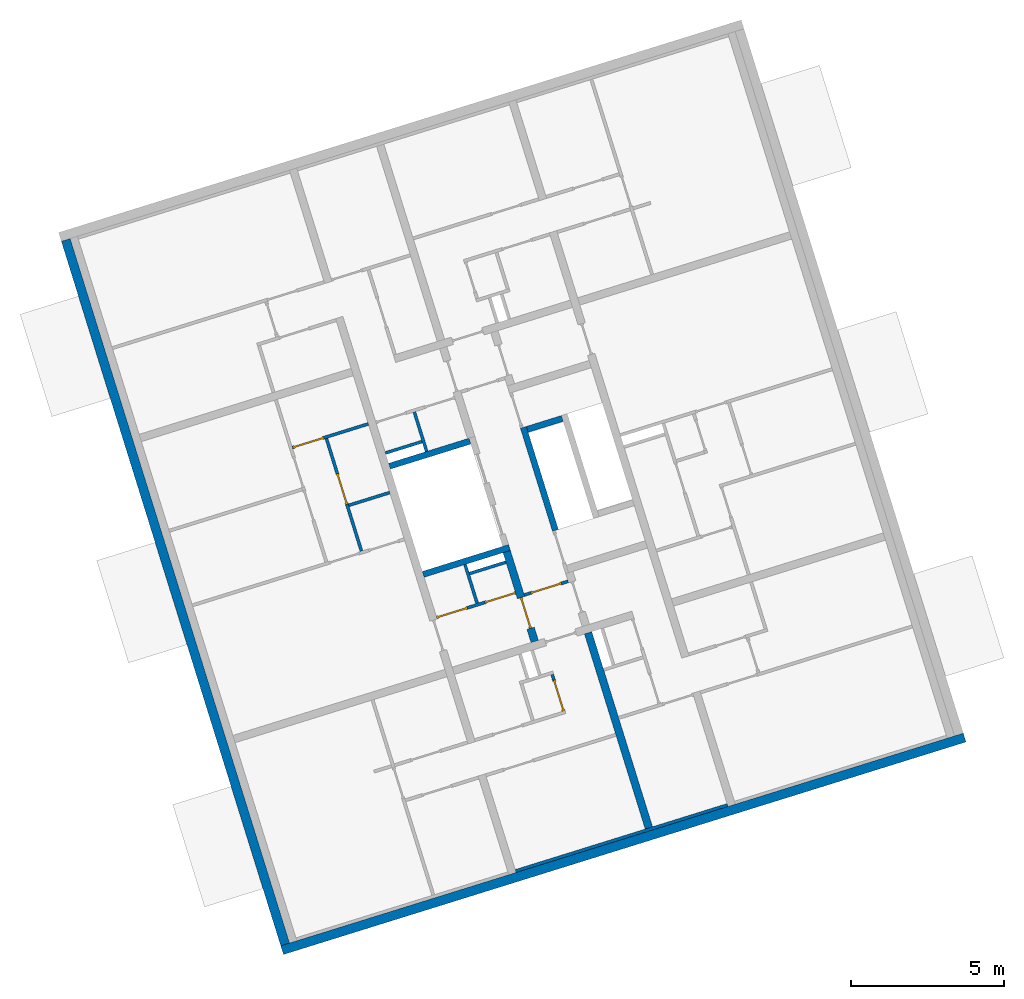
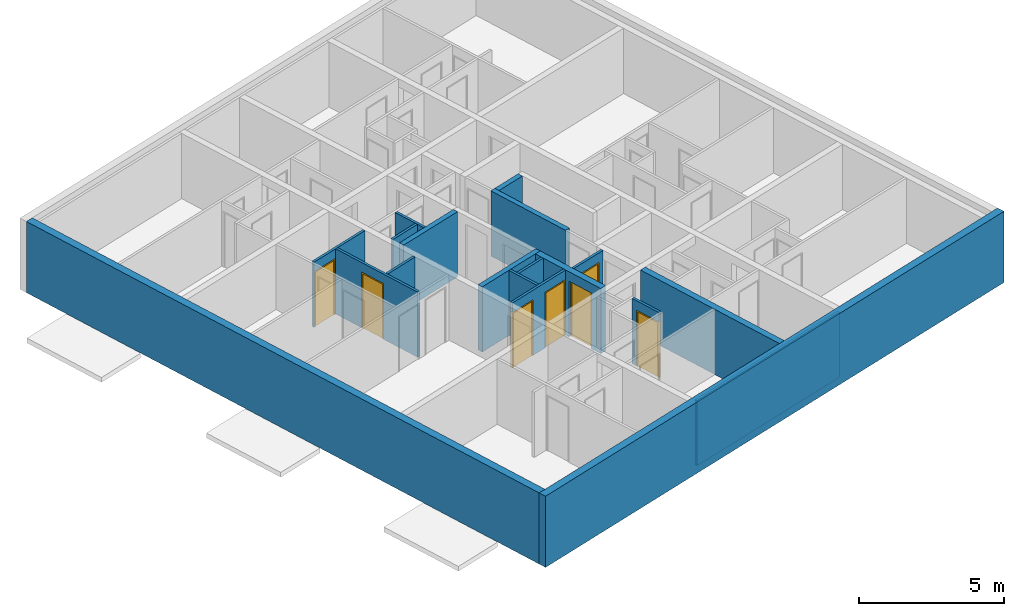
# One storey, part 2 of 9: 19 walls, 7 doors, 7 openings.
"""IFC4 building model written with IfcOpenShell, lengths in metres."""

from ifc_helpers import new_model, entity, si_unit, converted_unit, direction, frame, origin, place, context, subcontext, project, spatial, indexed_curve, outline, extrude, polygons, source, transform, mapped, material, constituent, constituent_set, type_object, type_shapes, element, fill, save


model = new_model("IFC4")

# Units and contexts
model_context = context("Model", 3, precision=1e-05, world=origin(), true_north=direction((6.12323399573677e-17, 1.0)))
body_context = subcontext(model_context, "Body", "Model", "MODEL_VIEW")
ifc_project = project(units=[si_unit("LENGTHUNIT", "METRE"), si_unit("AREAUNIT", "SQUARE_METRE"), si_unit("VOLUMEUNIT", "CUBIC_METRE"), converted_unit("PLANEANGLEUNIT", "DEGREE", entity("IfcPlaneAngleMeasure", 0.0174532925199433), si_unit("PLANEANGLEUNIT", "RADIAN"), dimensions=[0, 0, 0, 0, 0, 0, 0])], contexts=[model_context])

# Site, building, storey
site_placement = place(None, frame((13.1347999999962, 11.9886000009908, 0.0), z_axis=(0.0, 0.0, 1.0), x_axis=(0.954770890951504, 0.297342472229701, 0.0)))
site = spatial("IfcSite", under=ifc_project, at=site_placement, Name="Schiehaven", CompositionType="ELEMENT")
building_placement = place(site_placement, origin())
building = spatial("IfcBuilding", under=site, at=building_placement, Name="VORM huis", CompositionType="ELEMENT")
storey_placement = place(building_placement, frame((0.0, 0.0, 24.9)))
storey = spatial("IfcBuildingStorey", under=building, at=storey_placement, Name="08 achtste verdieping", CompositionType="ELEMENT", Elevation=24.9)

# Walls
ifc_material_1 = material(Name="ntb_ntb_ntb", Category="Miscellaneous")
wall_type_1 = type_object("IfcWallType", Name="Basic Wall:21_WA_gevel_binnenspouwwand 100mm_gen", PredefinedType="STANDARD")
wall_1_placement = place(storey_placement, frame((19.875, 5.04999999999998, 0.0), z_axis=(0.0, 0.0, 1.0), x_axis=(-1.0, 0.0, 0.0)))
element("IfcWall", 1, at=wall_1_placement, inside=storey, type_object=wall_type_1, material=ifc_material_1, Name="Binnenspouwblad", ObjectType="Wand", PredefinedType="NOTDEFINED", context=body_context, shape_type="SweptSolid", body=[
    extrude(outline(indexed_curve([(7.24999999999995, 0.0499999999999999), (-3.39037421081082e-16, 0.0499999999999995), (3.39037421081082e-16, -0.0499999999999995), (7.24999999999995, -0.049999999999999), (7.24999999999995, 0.0499999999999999)], self_intersect=False)), origin(), (0.0, 0.0, 1.0), 2.75),
])
wall_type_2 = type_object("IfcWallType", Name="Basic Wall: 300mm_gen", PredefinedType="STANDARD")
wall_2_placement = place(storey_placement, frame((4.72500000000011, 5.0, 0.0), z_axis=(0.0, 0.0, 1.0), x_axis=(0.0, 1.0, 0.0)))
element("IfcWall", 2, at=wall_2_placement, inside=storey, type_object=wall_type_2, material=ifc_material_1, Name="Gevelwand", ObjectType="Wand", PredefinedType="NOTDEFINED", context=body_context, shape_type="SweptSolid", body=[
    extrude(outline(indexed_curve([(24.1, 0.15), (-1.57429718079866e-16, 0.15), (1.57429718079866e-16, -0.15), (24.1, -0.15), (24.1, 0.15)], self_intersect=False)), origin(), (0.0, 0.0, 1.0), 3.0),
])
wall_3_placement = place(storey_placement, frame((27.9250000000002, 4.84999999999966, 0.0), z_axis=(0.0, 0.0, 1.0), x_axis=(-1.0, 0.0, 0.0)))
element("IfcWall", 3, at=wall_3_placement, inside=storey, type_object=wall_type_2, material=ifc_material_1, Name="Gevelwand", ObjectType="Wand", PredefinedType="NOTDEFINED", context=body_context, shape_type="SweptSolid", body=[
    extrude(outline(indexed_curve([(23.3500000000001, 0.150000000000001), (2.00830454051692e-15, 0.15), (2.32316397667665e-15, -0.15), (23.3500000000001, -0.15), (23.3500000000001, 0.150000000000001)], self_intersect=False)), origin(), (0.0, 0.0, 1.0), 3.0),
])
ifc_material_2 = material(Name="beton_gewapend_prefab-element", Category="Miscellaneous")
wall_type_3 = type_object("IfcWallType", Name="Basic Wall:28_WA_skelet_wand 200mm_gen", PredefinedType="STANDARD")
wall_4_placement = place(storey_placement, frame((12.6250000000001, 15.2, 0.0)))
element("IfcWall", 4, at=wall_4_placement, inside=storey, type_object=wall_type_3, material=ifc_material_2, Name="Constructieve wand", ObjectType="Wand", PredefinedType="NOTDEFINED", context=body_context, shape_type="SweptSolid", body=[
    extrude(outline(indexed_curve([(2.9500000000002, 0.100000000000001), (-3.51397851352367e-16, 0.100000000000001), (3.51397851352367e-16, -0.100000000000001), (2.9500000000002, -0.100000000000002), (2.9500000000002, 0.100000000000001)], self_intersect=False)), origin(), (0.0, 0.0, 1.0), 2.75),
])
wall_5_placement = place(storey_placement, frame((15.3750000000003, 18.9, 0.0), z_axis=(0.0, 0.0, 1.0), x_axis=(-1.0, 0.0, 0.0)))
element("IfcWall", 5, at=wall_5_placement, inside=storey, type_object=wall_type_3, material=ifc_material_2, Name="Constructieve wand", ObjectType="Wand", PredefinedType="NOTDEFINED", context=body_context, shape_type="SweptSolid", body=[
    extrude(outline(indexed_curve([(2.75000000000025, 0.100000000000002), (-2.05391259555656e-16, 0.100000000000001), (2.05391259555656e-16, -0.100000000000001), (2.75000000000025, -0.0999999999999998), (2.75000000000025, 0.100000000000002)], self_intersect=False)), origin(), (0.0, 0.0, 1.0), 2.75),
])
wall_6_placement = place(storey_placement, frame((17.1750000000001, 15.29, 0.0), z_axis=(0.0, 0.0, 1.0), x_axis=(0.0, 1.0, 0.0)))
element("IfcWall", 6, at=wall_6_placement, inside=storey, type_object=wall_type_3, material=ifc_material_2, Name="Constructieve wand", ObjectType="Wand", PredefinedType="NOTDEFINED", context=body_context, shape_type="SweptSolid", body=[
    extrude(outline(indexed_curve([(3.52, 0.0999999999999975), (-5.13023966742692e-16, 0.0999999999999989), (5.13023966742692e-16, -0.0999999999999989), (3.52, -0.1), (3.52, 0.0999999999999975)], self_intersect=False)), origin(), (0.0, 0.0, 1.0), 2.75),
])
wall_type_4 = type_object("IfcWallType", Name="Basic Wall:22_WA_afbouw_binnenwand 250mm_gen", PredefinedType="STANDARD")
wall_7_placement = place(storey_placement, frame((17.2000000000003, 11.7749999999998, 0.0), z_axis=(0.0, 0.0, 1.0), x_axis=(0.0, -1.0, 0.0)))
element("IfcWall", 7, at=wall_7_placement, inside=storey, type_object=wall_type_4, material=ifc_material_1, Name="Binnenwand", ObjectType="Wand", PredefinedType="NOTDEFINED", context=body_context, shape_type="SweptSolid", body=[
    extrude(outline(indexed_curve([(6.67500000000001, 0.125), (2.50179154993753e-16, 0.125), (-2.50179154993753e-16, -0.125), (6.67500000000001, -0.124999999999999), (6.67500000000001, 0.125)], self_intersect=False)), origin(), (0.0, 0.0, 1.0), 2.75),
])

# Wall, opening, door
wall_8_placement = place(storey_placement, frame((15.4500000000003, 15.0999999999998, 0.0), z_axis=(0.0, 0.0, 1.0), x_axis=(0.0, -1.0, 0.0)))
wall_8 = element("IfcWall", 8, at=wall_8_placement, inside=storey, type_object=wall_type_4, material=ifc_material_1, Name="Binnenwand", ObjectType="Wand", PredefinedType="NOTDEFINED", context=body_context, shape_type="Tessellation", body=[
    polygons([(2.62500000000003, -0.124999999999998, 2.34999999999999), (2.62500000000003, -0.124999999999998, 0.0), (3.07499999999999, -0.124999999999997, 0.0), (3.07499999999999, -0.124999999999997, 2.75), (0.0, -0.124999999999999, 2.75), (0.0, -0.124999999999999, 0.0), (1.57500000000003, -0.125, 0.0), (1.57500000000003, -0.125, 2.34999999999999), (3.07499999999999, 0.125000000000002, 0.0), (2.62500000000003, 0.125000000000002, 0.0), (2.62500000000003, 0.125000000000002, 2.34999999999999), (1.57500000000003, 0.125000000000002, 2.34999999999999), (1.57500000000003, 0.125000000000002, 0.0), (1.475, 0.125000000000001, 0.0), (0.0, 0.125, 0.0), (0.0, 0.125, 2.75), (1.475, 0.125000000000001, 2.75), (1.575, 0.125000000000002, 2.75), (3.07499999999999, 0.125000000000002, 2.75)], [[[1, 2, 3, 4, 5, 6, 7, 8]], [[9, 10, 11, 12, 13, 14, 15, 16, 17, 18, 19]], [[7, 6, 15, 14, 13]], [[4, 3, 9, 19]], [[5, 4, 19, 18, 17, 16]], [[6, 5, 16, 15]], [[13, 12, 8, 7]], [[11, 10, 2, 1]], [[12, 11, 1, 8]], [[3, 2, 10, 9]]], closed=True),
])
opening_1_placement = place(wall_8_placement, frame((1.57500000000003, -0.125000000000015, 0.0)))
opening_1 = element("IfcOpeningElement", 9, at=opening_1_placement, cuts=wall_8, Name="Woningtoegangsdeur", PredefinedType="OPENING", context=body_context, shape_type="SweptSolid", body=[
    extrude(outline(indexed_curve([(2.34999999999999, 1.35358391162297e-15), (2.34999999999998, 1.05), (0.0, 1.05), (2.16573425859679e-15, 1.35358391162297e-15), (2.34999999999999, 1.35358391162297e-15)], self_intersect=False)), frame((0.0, 0.0, 0.0), z_axis=(0.0, 1.0, 0.0), x_axis=(0.0, 0.0, 1.0)), (0.0, 0.0, 1.0), 0.25),
])
ifc_material_3 = material(Name="PD_a_binnenwandopeningen", Category="Miscellaneous")
ifc_constituent_1 = constituent(ifc_material_3, Name="PD_a_binnenwandopeningen", Category="Miscellaneous")
ifc_material_4 = material(Name="metaal_aluminium_ntb", Category="Miscellaneous")
ifc_constituent_2 = constituent(ifc_material_4, Name="metaal_aluminium_ntb", Category="Miscellaneous")
ifc_constituent_set_1 = constituent_set(constituents=[ifc_constituent_1, ifc_constituent_2])
door_type_1 = type_object("IfcDoorType", Name="32_DO_binnendeur enkel:woningtoegangsdeur", OperationType="REVOLVING", PredefinedType="DOOR")
shared_shape_1 = source(origin(), body_context, "Body", "SweptSolid", [
    extrude(outline(indexed_curve([(0.475, -1.16249999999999), (0.525000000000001, -1.16249999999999), (0.525000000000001, 1.18749999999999), (-0.525000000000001, 1.18749999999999), (-0.525000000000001, -1.16249999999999), (-0.475, -1.16249999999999), (-0.475, 1.13749999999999), (0.475, 1.13749999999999), (0.475, -1.16249999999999)], self_intersect=False)), frame((0.525000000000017, 0.174999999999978, 1.16249999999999), z_axis=(0.0, -1.0, 0.0), x_axis=(1.0, 0.0, 0.0)), (0.0, 0.0, 1.0), 0.1),
    extrude(outline(indexed_curve([(-0.475, -0.025), (0.475, -0.025), (0.475, 0.025), (-0.475, 0.025), (-0.475, -0.025)], self_intersect=False)), frame((0.525000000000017, 0.12499999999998, 0.0)), (0.0, 0.0, 1.0), 2.29999999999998),
])
door_1_placement = place(opening_1_placement, origin())
door_1 = element("IfcDoor", 10, at=door_1_placement, inside=storey, type_object=door_type_1, material=ifc_constituent_set_1, Name="Woningtoegangsdeur", ObjectType="Deur", OperationType="REVOLVING", OverallHeight=2.34999999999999, OverallWidth=1.05, PredefinedType="DOOR", context=body_context, shape_type="MappedRepresentation", body=[
    mapped(shared_shape_1, transform((0.0, 0.0, 0.0), scale=1.0)),
])
fill(opening_1, door_1)

wall_type_5 = type_object("IfcWallType", Name="Basic Wall:22_WA_afbouw_binnenwand 100mm_gen", PredefinedType="STANDARD")
wall_9_placement = place(storey_placement, frame((17.0750000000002, 13.5749999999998, 0.0), z_axis=(0.0, 0.0, 1.0), x_axis=(-1.0, 0.0, 0.0)))
wall_9 = element("IfcWall", 11, at=wall_9_placement, inside=storey, type_object=wall_type_5, material=ifc_material_1, Name="Binnenwand", ObjectType="Wand", PredefinedType="NOTDEFINED", context=body_context, shape_type="Tessellation", body=[
    polygons([(1.50000000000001, -0.0499999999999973, 2.75), (-5.48799231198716e-16, -0.0499999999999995, 2.75), (-5.48799231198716e-16, -0.0499999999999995, 0.0), (0.225, -0.0499999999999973, 0.0), (0.225000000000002, -0.0500000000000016, 2.34999999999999), (1.275, -0.0499999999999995, 2.34999999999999), (1.275, -0.0499999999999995, 0.0), (1.50000000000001, -0.0499999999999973, 0.0), (-4.9311163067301e-16, 0.0500000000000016, 2.75), (1.5, 0.0499999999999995, 2.75), (1.5, 0.0499999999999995, 2.34999999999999), (1.5, 0.0499999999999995, 0.0), (1.275, 0.0499999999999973, 0.0), (1.275, 0.0499999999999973, 2.34999999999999), (0.225, 0.0499999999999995, 2.34999999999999), (0.225, 0.0499999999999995, 0.0), (-4.9311163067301e-16, 0.0500000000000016, 0.0), (-4.93111630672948e-16, 0.0499999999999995, 2.34999999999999)], [[[1, 2, 3, 4, 5, 6, 7, 8]], [[9, 10, 11, 12, 13, 14, 15, 16, 17, 18]], [[3, 17, 16, 4]], [[2, 1, 10, 9]], [[15, 5, 4, 16]], [[5, 15, 14, 6]], [[6, 14, 13, 7]], [[3, 2, 9, 18, 17]], [[1, 8, 12, 11, 10]], [[12, 8, 7, 13]]], closed=True),
])
opening_2_placement = place(wall_9_placement, frame((1.275, 0.0499999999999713, 0.0)))
opening_2 = element("IfcOpeningElement", 12, at=opening_2_placement, cuts=wall_9, Name="Vluchtdeur", PredefinedType="OPENING", context=body_context, shape_type="SweptSolid", body=[
    extrude(outline(indexed_curve([(2.34999999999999, 1.35358391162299e-15), (2.34999999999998, 1.05), (0.0, 1.05), (2.16573425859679e-15, 1.35358391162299e-15), (2.34999999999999, 1.35358391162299e-15)], self_intersect=False)), frame((0.0, 0.0, 0.0), z_axis=(0.0, -1.0, 0.0), x_axis=(0.0, 0.0, 1.0)), (0.0, 0.0, 1.0), 0.1),
])
ifc_constituent_3 = constituent(ifc_material_3, Name="PD_a_binnenwandopeningen", Category="Miscellaneous")
ifc_constituent_4 = constituent(ifc_material_4, Name="metaal_aluminium_ntb", Category="Miscellaneous")
ifc_constituent_set_2 = constituent_set(constituents=[ifc_constituent_3, ifc_constituent_4])
door_type_2 = type_object("IfcDoorType", Name="32_DO_binnendeur enkel:binnendeur zelfsluitend 30min", OperationType="NOTDEFINED", PredefinedType="DOOR")
shared_shape_2 = source(origin(), body_context, "Body", "SweptSolid", [
    extrude(outline(indexed_curve([(0.475, -1.16249999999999), (0.525, -1.16249999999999), (0.525, 1.18749999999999), (-0.525, 1.18749999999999), (-0.525, -1.16249999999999), (-0.475, -1.16249999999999), (-0.475, 1.13749999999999), (0.475, 1.13749999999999), (0.475, -1.16249999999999)], self_intersect=False)), frame((0.525000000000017, 0.100000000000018, 1.16249999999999), z_axis=(0.0, -1.0, 0.0), x_axis=(1.0, 0.0, 0.0)), (0.0, 0.0, 1.0), 0.1),
    extrude(outline(indexed_curve([(-0.475, -0.025), (0.475, -0.025), (0.475, 0.025), (-0.475, 0.025), (-0.475, -0.025)], self_intersect=False)), frame((0.525000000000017, 0.0499999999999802, 0.0)), (0.0, 0.0, 1.0), 2.29999999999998),
])
door_2_placement = place(opening_2_placement, frame((0.0, 0.0, 0.0), z_axis=(0.0, 0.0, 1.0), x_axis=(-1.0, 0.0, 0.0)))
door_2 = element("IfcDoor", 13, at=door_2_placement, inside=storey, type_object=door_type_2, material=ifc_constituent_set_2, Name="Vluchtdeur", ObjectType="Deur", OperationType="NOTDEFINED", OverallHeight=2.34999999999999, OverallWidth=1.05, PredefinedType="DOOR", context=body_context, shape_type="MappedRepresentation", body=[
    mapped(shared_shape_2, transform((0.0, 0.0, 0.0), scale=1.0)),
])
fill(opening_2, door_2)

wall_10_placement = place(storey_placement, frame((15.6750000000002, 9.57499999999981, 0.0), z_axis=(0.0, 0.0, 1.0), x_axis=(0.0, 1.0, 0.0)))
wall_10 = element("IfcWall", 14, at=wall_10_placement, inside=storey, type_object=wall_type_5, material=ifc_material_1, Name="Binnenwand", ObjectType="Wand", PredefinedType="NOTDEFINED", context=body_context, shape_type="Tessellation", body=[
    polygons([(1.25, -0.0499999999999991, 2.75), (1.08286712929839e-15, -0.0499999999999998, 2.75), (1.08286712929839e-15, -0.0499999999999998, 2.34999999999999), (1.05, -0.050000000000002, 2.34999999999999), (1.05, -0.050000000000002, 0.0), (1.25, -0.0499999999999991, 0.0), (0.0, 0.0500000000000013, 2.75), (1.25, 0.0499999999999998, 2.75), (1.25, 0.0499999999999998, 0.0), (1.05, 0.0499999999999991, 0.0), (1.05, 0.0499999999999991, 2.34999999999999), (0.0, 0.0500000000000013, 2.34999999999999)], [[[1, 2, 3, 4, 5, 6]], [[7, 8, 9, 10, 11, 12]], [[9, 6, 5, 10]], [[2, 1, 8, 7]], [[4, 11, 10, 5]], [[11, 4, 3, 12]], [[1, 6, 9, 8]], [[2, 7, 12, 3]]], closed=True),
])
opening_3_placement = place(wall_10_placement, frame((1.05, 0.0499999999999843, 0.0)))
opening_3 = element("IfcOpeningElement", 15, at=opening_3_placement, cuts=wall_10, Name="Binnendeur", PredefinedType="OPENING", context=body_context, shape_type="SweptSolid", body=[
    extrude(outline(indexed_curve([(2.34999999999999, 1.05), (0.0, 1.05), (0.0, 1.35358391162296e-15), (2.34999999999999, 1.35358391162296e-15), (2.34999999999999, 1.05)], self_intersect=False)), frame((0.0, 0.0, 0.0), z_axis=(0.0, -1.0, 0.0), x_axis=(0.0, 0.0, 1.0)), (0.0, 0.0, 1.0), 0.1),
])
ifc_constituent_5 = constituent(ifc_material_3, Name="PD_a_binnenwandopeningen", Category="Miscellaneous")
ifc_constituent_6 = constituent(ifc_material_4, Name="metaal_aluminium_ntb", Category="Miscellaneous")
ifc_constituent_set_3 = constituent_set(constituents=[ifc_constituent_5, ifc_constituent_6])
door_type_3 = type_object("IfcDoorType", Name="32_DO_binnendeur enkel:binnendeur", OperationType="REVOLVING", PredefinedType="DOOR")
shared_shape_3 = source(origin(), body_context, "Body", "SweptSolid", [
    extrude(outline(indexed_curve([(-1.16249999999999, -0.525000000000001), (1.18749999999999, -0.525), (1.18749999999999, 0.525), (-1.16249999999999, 0.525), (-1.16249999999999, 0.475), (1.13749999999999, 0.475), (1.13749999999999, -0.475), (-1.16249999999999, -0.475), (-1.16249999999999, -0.525000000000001)], self_intersect=False)), frame((0.525000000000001, 0.0, 1.16249999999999), z_axis=(0.0, 1.0, 0.0), x_axis=(0.0, 0.0, 1.0)), (0.0, 0.0, 1.0), 0.1),
    extrude(outline(indexed_curve([(-0.025, -0.475), (0.025, -0.475), (0.025, 0.475), (-0.025, 0.475), (-0.025, -0.475)], self_intersect=False)), frame((0.525000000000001, 0.0499999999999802, 0.0), z_axis=(0.0, 0.0, 1.0), x_axis=(0.0, 1.0, 0.0)), (0.0, 0.0, 1.0), 2.29999999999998),
])
type_shapes(door_type_3, [shared_shape_3])
door_3_placement = place(opening_3_placement, frame((0.0, 0.0, 0.0), z_axis=(0.0, 0.0, 1.0), x_axis=(-1.0, 0.0, 0.0)))
door_3 = element("IfcDoor", 16, at=door_3_placement, inside=storey, type_object=door_type_3, material=ifc_constituent_set_3, Name="Binnendeur", ObjectType="Deur", OperationType="REVOLVING", OverallHeight=2.34999999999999, OverallWidth=1.05, PredefinedType="DOOR", context=body_context, shape_type="MappedRepresentation", body=[
    mapped(shared_shape_3, transform((0.0, 0.0, 0.0), scale=1.0)),
])
fill(opening_3, door_3)

# Walls
wall_11_placement = place(storey_placement, frame((13.9250000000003, 19.0, 0.0), z_axis=(0.0, 0.0, 1.0), x_axis=(0.0, 1.0, 0.0)))
element("IfcWall", 17, at=wall_11_placement, inside=storey, type_object=wall_type_5, material=ifc_material_1, Name="Binnenwand", ObjectType="Wand", PredefinedType="NOTDEFINED", context=body_context, shape_type="SweptSolid", body=[
    extrude(outline(indexed_curve([(1.34999999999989, 0.05), (-2.17202003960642e-17, 0.0499999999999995), (2.17202003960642e-17, -0.0499999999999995), (1.34999999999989, -0.0499999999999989), (1.34999999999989, 0.05)], self_intersect=False)), origin(), (0.0, 0.0, 1.0), 2.75),
])
wall_12_placement = place(storey_placement, frame((12.6250000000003, 19.3499999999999, 0.0)))
element("IfcWall", 18, at=wall_12_placement, inside=storey, type_object=wall_type_5, material=ifc_material_1, Name="Binnenwand", ObjectType="Wand", PredefinedType="NOTDEFINED", context=body_context, shape_type="SweptSolid", body=[
    extrude(outline(indexed_curve([(1.25000000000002, 0.0500000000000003), (9.21562864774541e-16, 0.0499999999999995), (-9.21562864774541e-16, -0.0499999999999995), (1.25000000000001, -0.0499999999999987), (1.25000000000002, 0.0500000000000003)], self_intersect=False)), origin(), (0.0, 0.0, 1.0), 2.75),
])

# Wall, opening, door
wall_13_placement = place(storey_placement, frame((9.77500000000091, 20.4250000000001, 0.0)))
wall_13 = element("IfcWall", 19, at=wall_13_placement, inside=storey, type_object=wall_type_5, material=ifc_material_1, Name="Binnenwand", ObjectType="Wand", PredefinedType="NOTDEFINED", context=body_context, shape_type="Tessellation", body=[
    polygons([(1.075, -0.0499999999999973, 2.34999999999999), (1.075, -0.0499999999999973, 0.0), (1.1, -0.0499999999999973, 0.0), (1.2, -0.0499999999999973, 0.0), (2.59999999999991, -0.0499999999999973, 0.0), (2.59999999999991, -0.0499999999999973, 2.75), (1.2, -0.0499999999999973, 2.75), (1.1, -0.0499999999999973, 2.75), (9.59700802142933e-16, -0.0499999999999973, 2.75), (9.59700802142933e-16, -0.0499999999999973, 0.0), (0.0250000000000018, -0.0499999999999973, 0.0), (0.0250000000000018, -0.0499999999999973, 2.34999999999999), (2.59999999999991, 0.0500000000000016, 0.0), (1.075, 0.0500000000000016, 0.0), (1.075, 0.0500000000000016, 2.34999999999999), (0.0250000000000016, 0.0500000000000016, 2.34999999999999), (0.0250000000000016, 0.0500000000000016, 0.0), (8.26229172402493e-16, 0.0500000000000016, 0.0), (8.26229172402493e-16, 0.0500000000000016, 2.75), (2.59999999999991, 0.0500000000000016, 2.75)], [[[1, 2, 3, 4, 5, 6, 7, 8, 9, 10, 11, 12]], [[13, 14, 15, 16, 17, 18, 19, 20]], [[11, 10, 18, 17]], [[6, 5, 13, 20]], [[9, 8, 7, 6, 20, 19]], [[10, 9, 19, 18]], [[17, 16, 12, 11]], [[15, 14, 2, 1]], [[16, 15, 1, 12]], [[5, 4, 3, 2, 14, 13]]], closed=True),
])
opening_4_placement = place(wall_13_placement, frame((1.075, 0.0500000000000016, 0.0)))
opening_4 = element("IfcOpeningElement", 20, at=opening_4_placement, cuts=wall_13, Name="Binnendeur", PredefinedType="OPENING", context=body_context, shape_type="SweptSolid", body=[
    extrude(outline(indexed_curve([(2.34999999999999, 1.05), (0.0, 1.05), (0.0, 1.35358391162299e-15), (2.34999999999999, 1.35358391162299e-15), (2.34999999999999, 1.05)], self_intersect=False)), frame((0.0, 0.0, 0.0), z_axis=(0.0, -1.0, 0.0), x_axis=(0.0, 0.0, 1.0)), (0.0, 0.0, 1.0), 0.1),
])
ifc_constituent_7 = constituent(ifc_material_3, Name="PD_a_binnenwandopeningen", Category="Miscellaneous")
ifc_constituent_8 = constituent(ifc_material_4, Name="metaal_aluminium_ntb", Category="Miscellaneous")
ifc_constituent_set_4 = constituent_set(constituents=[ifc_constituent_7, ifc_constituent_8])
door_4_placement = place(opening_4_placement, frame((0.0, 0.0, 0.0), z_axis=(0.0, 0.0, 1.0), x_axis=(-1.0, 0.0, 0.0)))
door_4 = element("IfcDoor", 21, at=door_4_placement, inside=storey, type_object=door_type_3, material=ifc_constituent_set_4, Name="Binnendeur", ObjectType="Deur", OperationType="REVOLVING", OverallHeight=2.34999999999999, OverallWidth=1.05, PredefinedType="DOOR", context=body_context, shape_type="MappedRepresentation", body=[
    mapped(shared_shape_3, transform((0.0, 0.0, 0.0), scale=1.0)),
])
fill(opening_4, door_4)

wall_14_placement = place(storey_placement, frame((10.9250000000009, 20.3750000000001, 0.0), z_axis=(0.0, 0.0, 1.0), x_axis=(0.0, -1.0, 0.0)))
wall_14 = element("IfcWall", 22, at=wall_14_placement, inside=storey, type_object=wall_type_5, material=ifc_material_1, Name="Binnenwand", ObjectType="Wand", PredefinedType="NOTDEFINED", context=body_context, shape_type="Tessellation", body=[
    polygons([(2.25000000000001, -0.0500000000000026, 2.34999999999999), (2.25000000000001, -0.0500000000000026, 0.0), (3.85000000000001, -0.0500000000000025, 0.0), (3.85000000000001, -0.0500000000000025, 2.75), (0.0, -0.0500000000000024, 2.75), (0.0, -0.0500000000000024, 0.0), (1.20000000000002, -0.0500000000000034, 0.0), (1.20000000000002, -0.0500000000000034, 2.34999999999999), (3.85000000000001, 0.0499999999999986, 0.0), (2.35000000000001, 0.0499999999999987, 0.0), (2.25000000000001, 0.0499999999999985, 0.0), (2.25000000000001, 0.0499999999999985, 2.34999999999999), (1.20000000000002, 0.0499999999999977, 2.34999999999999), (1.20000000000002, 0.0499999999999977, 0.0), (0.0, 0.0499999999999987, 0.0), (0.0, 0.0499999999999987, 2.75), (2.25000000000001, 0.0499999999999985, 2.75), (2.35000000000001, 0.0499999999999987, 2.75), (3.85000000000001, 0.0499999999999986, 2.75)], [[[1, 2, 3, 4, 5, 6, 7, 8]], [[9, 10, 11, 12, 13, 14, 15, 16, 17, 18, 19]], [[7, 6, 15, 14]], [[5, 4, 19, 18, 17, 16]], [[6, 5, 16, 15]], [[4, 3, 9, 19]], [[14, 13, 8, 7]], [[12, 11, 2, 1]], [[13, 12, 1, 8]], [[3, 2, 11, 10, 9]]], closed=True),
])
opening_5_placement = place(wall_14_placement, frame((2.25000000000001, 0.0499999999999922, 0.0)))
opening_5 = element("IfcOpeningElement", 23, at=opening_5_placement, cuts=wall_14, Name="Binnendeur", PredefinedType="OPENING", context=body_context, shape_type="SweptSolid", body=[
    extrude(outline(indexed_curve([(2.34999999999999, 1.05), (0.0, 1.05), (0.0, 1.35358391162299e-15), (2.34999999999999, 1.35358391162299e-15), (2.34999999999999, 1.05)], self_intersect=False)), frame((0.0, 0.0, 0.0), z_axis=(0.0, -1.0, 0.0), x_axis=(0.0, 0.0, 1.0)), (0.0, 0.0, 1.0), 0.1),
])
ifc_constituent_9 = constituent(ifc_material_3, Name="PD_a_binnenwandopeningen", Category="Miscellaneous")
ifc_constituent_10 = constituent(ifc_material_4, Name="metaal_aluminium_ntb", Category="Miscellaneous")
ifc_constituent_set_5 = constituent_set(constituents=[ifc_constituent_9, ifc_constituent_10])
door_5_placement = place(opening_5_placement, frame((0.0, 0.0, 0.0), z_axis=(0.0, 0.0, 1.0), x_axis=(-1.0, 0.0, 0.0)))
door_5 = element("IfcDoor", 24, at=door_5_placement, inside=storey, type_object=door_type_3, material=ifc_constituent_set_5, Name="Binnendeur", ObjectType="Deur", OperationType="REVOLVING", OverallHeight=2.34999999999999, OverallWidth=1.05, PredefinedType="DOOR", context=body_context, shape_type="MappedRepresentation", body=[
    mapped(shared_shape_3, transform((0.0, 0.0, 0.0), scale=1.0)),
])
fill(opening_5, door_5)

# Wall, openings, doors
wall_15_placement = place(storey_placement, frame((15.3250000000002, 13.7249999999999, 0.0), z_axis=(0.0, 0.0, 1.0), x_axis=(-1.0, 0.0, 0.0)))
wall_15 = element("IfcWall", 25, at=wall_15_placement, inside=storey, type_object=wall_type_5, material=ifc_material_1, Name="Binnenwand", ObjectType="Wand", PredefinedType="NOTDEFINED", context=body_context, shape_type="Tessellation", body=[
    polygons([(2.70000000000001, -0.0499999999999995, 2.75), (1.34999999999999, -0.0500000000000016, 2.75), (1.24999999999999, -0.0500000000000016, 2.75), (-4.01061899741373e-16, -0.0499999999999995, 2.75), (-4.01061899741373e-16, -0.0499999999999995, 2.34999999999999), (1.04999999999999, -0.0500000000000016, 2.34999999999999), (1.04999999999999, -0.0500000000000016, 0.0), (1.24999999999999, -0.0500000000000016, 0.0), (1.34999999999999, -0.0500000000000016, 0.0), (1.65000000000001, -0.0500000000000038, 0.0), (1.65000000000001, -0.0500000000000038, 2.34999999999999), (2.70000000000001, -0.0499999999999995, 2.34999999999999), (-1.04276093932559e-15, 0.0499999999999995, 2.75), (2.70000000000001, 0.0499999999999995, 2.75), (2.70000000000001, 0.0499999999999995, 2.34999999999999), (1.65000000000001, 0.0499999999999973, 2.34999999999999), (1.65000000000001, 0.0499999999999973, 0.0), (1.05, 0.0500000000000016, 0.0), (1.05, 0.0500000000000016, 2.34999999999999), (-1.04276093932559e-15, 0.0499999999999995, 2.34999999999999)], [[[1, 2, 3, 4, 5, 6, 7, 8, 9, 10, 11, 12]], [[13, 14, 15, 16, 17, 18, 19, 20]], [[7, 18, 17, 10, 9, 8]], [[14, 1, 12, 15]], [[4, 3, 2, 1, 14, 13]], [[4, 13, 20, 5]], [[6, 19, 18, 7]], [[19, 6, 5, 20]], [[16, 11, 10, 17]], [[11, 16, 15, 12]]], closed=True),
])
opening_6_placement = place(wall_15_placement, frame((0.0, -0.0500000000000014, 0.0)))
opening_6 = element("IfcOpeningElement", 26, at=opening_6_placement, cuts=wall_15, Name="Binnendeur", PredefinedType="OPENING", context=body_context, shape_type="SweptSolid", body=[
    extrude(outline(indexed_curve([(2.34999999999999, 1.05), (0.0, 1.05), (0.0, 1.35358391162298e-15), (2.34999999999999, 1.35358391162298e-15), (2.34999999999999, 1.05)], self_intersect=False)), frame((0.0, 0.0, 0.0), z_axis=(0.0, 1.0, 0.0), x_axis=(0.0, 0.0, 1.0)), (0.0, 0.0, 1.0), 0.1),
])
opening_7_placement = place(wall_15_placement, frame((1.65000000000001, -0.0500000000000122, 0.0)))
opening_7 = element("IfcOpeningElement", 27, at=opening_7_placement, cuts=wall_15, Name="Binnendeur", PredefinedType="OPENING", context=body_context, shape_type="SweptSolid", body=[
    extrude(outline(indexed_curve([(2.34999999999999, 1.05), (0.0, 1.05), (0.0, 1.35358391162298e-15), (2.34999999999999, 1.35358391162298e-15), (2.34999999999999, 1.05)], self_intersect=False)), frame((0.0, 0.0, 0.0), z_axis=(0.0, 1.0, 0.0), x_axis=(0.0, 0.0, 1.0)), (0.0, 0.0, 1.0), 0.1),
])
ifc_constituent_11 = constituent(ifc_material_3, Name="PD_a_binnenwandopeningen", Category="Miscellaneous")
ifc_constituent_12 = constituent(ifc_material_4, Name="metaal_aluminium_ntb", Category="Miscellaneous")
ifc_constituent_set_6 = constituent_set(constituents=[ifc_constituent_11, ifc_constituent_12])
door_6_placement = place(opening_6_placement, origin())
door_6 = element("IfcDoor", 28, at=door_6_placement, inside=storey, type_object=door_type_3, material=ifc_constituent_set_6, Name="Binnendeur", ObjectType="Deur", OperationType="REVOLVING", OverallHeight=2.34999999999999, OverallWidth=1.05, PredefinedType="DOOR", context=body_context, shape_type="MappedRepresentation", body=[
    mapped(shared_shape_3, transform((0.0, 0.0, 0.0), scale=1.0)),
])
fill(opening_6, door_6)
ifc_constituent_13 = constituent(ifc_material_3, Name="PD_a_binnenwandopeningen", Category="Miscellaneous")
ifc_constituent_14 = constituent(ifc_material_4, Name="metaal_aluminium_ntb", Category="Miscellaneous")
ifc_constituent_set_7 = constituent_set(constituents=[ifc_constituent_13, ifc_constituent_14])
door_7_placement = place(opening_7_placement, origin())
door_7 = element("IfcDoor", 29, at=door_7_placement, inside=storey, type_object=door_type_3, material=ifc_constituent_set_7, Name="Binnendeur", ObjectType="Deur", OperationType="REVOLVING", OverallHeight=2.34999999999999, OverallWidth=1.05, PredefinedType="DOOR", context=body_context, shape_type="MappedRepresentation", body=[
    mapped(shared_shape_3, transform((0.0, 0.0, 0.0), scale=1.0)),
])
fill(opening_7, door_7)

# Walls
wall_16_placement = place(storey_placement, frame((15.3250000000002, 14.7749999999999, 0.0), z_axis=(0.0, 0.0, 1.0), x_axis=(-1.0, 0.0, 0.0)))
element("IfcWall", 30, at=wall_16_placement, inside=storey, type_object=wall_type_5, material=ifc_material_1, Name="Binnenwand", ObjectType="Wand", PredefinedType="NOTDEFINED", context=body_context, shape_type="SweptSolid", body=[
    extrude(outline(indexed_curve([(1.24999999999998, 0.050000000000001), (-3.20849519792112e-16, 0.0499999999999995), (3.20849519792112e-16, -0.0499999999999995), (1.24999999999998, -0.0499999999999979), (1.24999999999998, 0.050000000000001)], self_intersect=False)), origin(), (0.0, 0.0, 1.0), 2.75),
])
wall_17_placement = place(storey_placement, frame((14.0250000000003, 13.7749999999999, 0.0), z_axis=(0.0, 0.0, 1.0), x_axis=(0.0, 1.0, 0.0)))
element("IfcWall", 31, at=wall_17_placement, inside=storey, type_object=wall_type_5, material=ifc_material_1, Name="Binnenwand", ObjectType="Wand", PredefinedType="NOTDEFINED", context=body_context, shape_type="SweptSolid", body=[
    extrude(outline(indexed_curve([(1.32500000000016, 0.05), (-1.03130202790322e-16, 0.0499999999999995), (1.03130202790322e-16, -0.0499999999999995), (1.32500000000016, -0.0499999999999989), (1.32500000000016, 0.05)], self_intersect=False)), origin(), (0.0, 0.0, 1.0), 2.75),
])
wall_18_placement = place(storey_placement, frame((12.3771642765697, 18.075, 0.0), z_axis=(0.0, 0.0, 1.0), x_axis=(-1.0, 0.0, 0.0)))
element("IfcWall", 32, at=wall_18_placement, inside=storey, type_object=wall_type_5, material=ifc_material_1, Name="Binnenwand", ObjectType="Wand", PredefinedType="NOTDEFINED", context=body_context, shape_type="SweptSolid", body=[
    extrude(outline(indexed_curve([(1.40216427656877, 0.05), (-3.2845023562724e-16, 0.0499999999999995), (3.2845023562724e-16, -0.0499999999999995), (1.40216427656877, -0.0499999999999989), (1.40216427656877, 0.05)], self_intersect=False)), origin(), (0.0, 0.0, 1.0), 2.75),
])
wall_type_6 = type_object("IfcWallType", Name="Basic Wall:22_WA_afbouw_binnenwand 200mm_gen", PredefinedType="STANDARD")
wall_19_placement = place(storey_placement, frame((18.4750000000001, 18.71, 0.0), z_axis=(0.0, 0.0, 1.0), x_axis=(-1.0, 0.0, 0.0)))
element("IfcWall", 33, at=wall_19_placement, inside=storey, type_object=wall_type_6, material=ifc_material_1, Name="Binnenwand", ObjectType="Wand", PredefinedType="NOTDEFINED", context=body_context, shape_type="SweptSolid", body=[
    extrude(outline(indexed_curve([(1.20000000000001, 0.0999999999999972), (-3.97197217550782e-16, 0.0999999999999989), (3.97197217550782e-16, -0.0999999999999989), (1.20000000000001, -0.100000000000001), (1.20000000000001, 0.0999999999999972)], self_intersect=False)), origin(), (0.0, 0.0, 1.0), 2.75),
])

save(model, "model.ifc")
